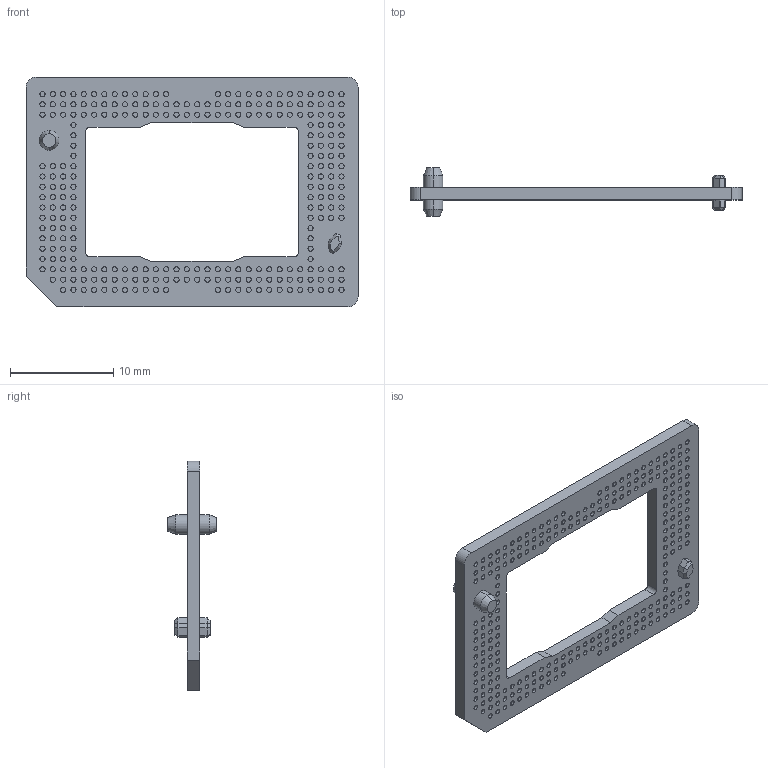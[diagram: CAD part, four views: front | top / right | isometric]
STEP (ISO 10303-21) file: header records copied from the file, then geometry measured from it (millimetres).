
FILE_DESCRIPTION (( 'STEP AP214' ), '1' );
FILE_NAME ('2515243-S410Interposer.STEP', '2016-09-13T20:50:57', ( '' ), ( '' ), 'SwSTEP 2.0', 'SolidWorks 2013', '' );
FILE_SCHEMA (( 'AUTOMOTIVE_DESIGN' ));
Length unit declared in the file: millimetre
Products named in the file (1): 2515243-S410Interposer
Bounding box: 32.2 x 4.72 x 22.3 mm (x, y, z)
Volume: 535.6 mm3; surface area: 1322.3 mm2
Topology: 1 solids, 1 shells, 1616 faces, 3266 edges, 2170 vertices
Faces by surface type: cylinder 1045, plane 561, cone 10
Entity records: 43320 total; most frequent: DIRECTION 8588, CARTESIAN_POINT 7083, ORIENTED_EDGE 6532, AXIS2_PLACEMENT_3D 3715, EDGE_CURVE 3266, VERTEX_POINT 2170, EDGE_LOOP 2136, CIRCLE 2098
